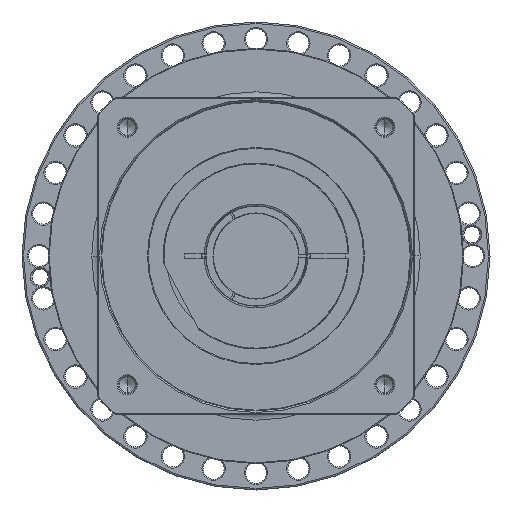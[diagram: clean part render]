
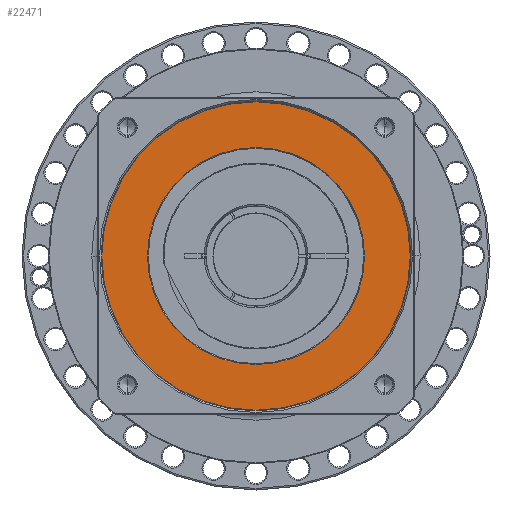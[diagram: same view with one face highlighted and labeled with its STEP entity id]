
A CAD part, left-side view. The second image highlights one B-rep face of the part: STEP entity #22471.
In plain terms, the highlighted planar face has unit normal (-1, 0, 0) as drawn and (0, 0, 1) by its records, which use the part's own axes.
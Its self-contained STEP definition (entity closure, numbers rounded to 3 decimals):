
#21202=CARTESIAN_POINT('',(0.,0.,50.5));
#21203=DIRECTION('',(0.,0.,-1.));
#21204=DIRECTION('',(0.,-1.,0.));
#21205=AXIS2_PLACEMENT_3D('',#21202,#21203,#21204);
#21207=CARTESIAN_POINT('',(0.,0.,50.5));
#21208=DIRECTION('',(0.,0.,-1.));
#21209=DIRECTION('',(0.,1.,0.));
#21210=AXIS2_PLACEMENT_3D('',#21207,#21208,#21209);
#21212=CARTESIAN_POINT('',(0.,0.,50.5));
#21213=DIRECTION('',(0.,0.,-1.));
#21214=DIRECTION('',(1.,0.,0.));
#21215=AXIS2_PLACEMENT_3D('',#21212,#21213,#21214);
#21230=CARTESIAN_POINT('',(0.,0.,50.5));
#21231=DIRECTION('',(0.,0.,-1.));
#21232=DIRECTION('',(-1.,0.,0.));
#21233=AXIS2_PLACEMENT_3D('',#21230,#21231,#21232);
#21765=CARTESIAN_POINT('',(0.,-99.5,50.5));
#21766=CARTESIAN_POINT('',(0.,99.5,50.5));
#21767=VERTEX_POINT('',#21765);
#21768=VERTEX_POINT('',#21766);
#21773=CARTESIAN_POINT('',(-70.,0.,50.5));
#21774=CARTESIAN_POINT('',(70.,0.,50.5));
#21775=VERTEX_POINT('',#21773);
#21776=VERTEX_POINT('',#21774);
#22455=CARTESIAN_POINT('',(0.,0.,50.5));
#22456=DIRECTION('',(0.,0.,-1.));
#22457=DIRECTION('',(0.,-1.,0.));
#22458=AXIS2_PLACEMENT_3D('',#22455,#22456,#22457);
#22459=PLANE('',#22458);
#22461=ORIENTED_EDGE('',*,*,#22460,.T.);
#22462=ORIENTED_EDGE('',*,*,#22445,.T.);
#22463=EDGE_LOOP('',(#22461,#22462));
#22464=FACE_OUTER_BOUND('',#22463,.F.);
#22466=ORIENTED_EDGE('',*,*,#22465,.F.);
#22468=ORIENTED_EDGE('',*,*,#22467,.F.);
#22469=EDGE_LOOP('',(#22466,#22468));
#22470=FACE_BOUND('',#22469,.F.);
#22471=ADVANCED_FACE('',(#22464,#22470),#22459,.F.);
#21206=CIRCLE('',#21205,99.5);
#21211=CIRCLE('',#21210,99.5);
#21216=CIRCLE('',#21215,70.);
#21234=CIRCLE('',#21233,70.);
#22445=EDGE_CURVE('',#21768,#21767,#21211,.T.);
#22460=EDGE_CURVE('',#21767,#21768,#21206,.T.);
#22465=EDGE_CURVE('',#21776,#21775,#21216,.T.);
#22467=EDGE_CURVE('',#21775,#21776,#21234,.T.);
